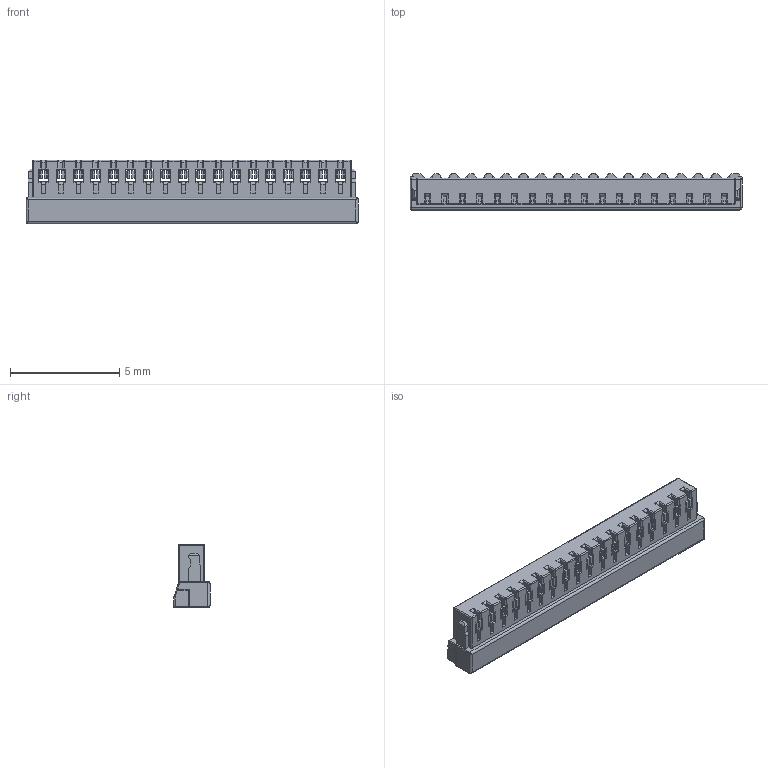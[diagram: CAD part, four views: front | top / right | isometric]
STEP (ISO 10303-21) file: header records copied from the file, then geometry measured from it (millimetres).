
FILE_DESCRIPTION((''),'2;1');
FILE_NAME('SCT0800HI-18','2023-03-26T10:25:10',('Administrator'),(''),'CREO PARAMETRIC BY PTC INC, 2018050','CREO PARAMETRIC BY PTC INC, 2018050','');
FILE_SCHEMA(('CONFIG_CONTROL_DESIGN'));
Products named in the file (1): SCT0800HI-18
Bounding box: 15.2 x 1.65 x 2.9 mm (x, y, z)
Surface area: 290.9 mm2 (no closed solid volume)
Topology: 0 solids, 1 shells, 3131 faces, 9127 edges, 5769 vertices
Faces by surface type: plane 2114, cylinder 919, sphere 92, bspline 5, torus 1
Entity records: 102613 total; most frequent: CARTESIAN_POINT 18948, ORIENTED_EDGE 18147, DIRECTION 16979, EDGE_CURVE 9079, VECTOR 7115, LINE 7115, VERTEX_POINT 5769, AXIS2_PLACEMENT_3D 4932
